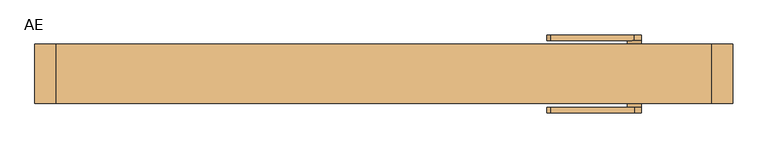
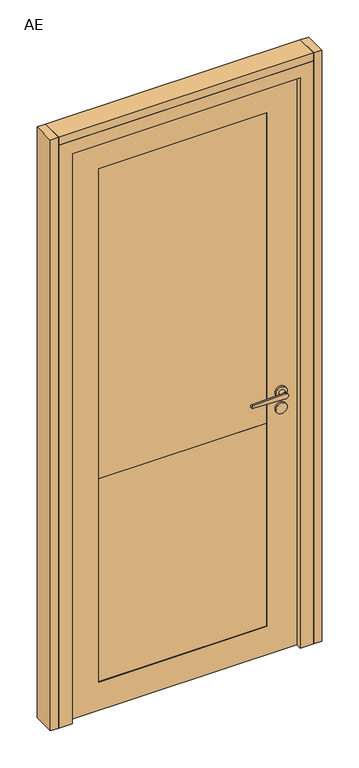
"""IFC4 building model written with IfcOpenShell, lengths in millimetres: door geometry, Mobiliário_Mobiliário de Escritório_Porta de Giro Mista Vidro Duplo com Persiana - AE_Marelli : AE."""

from ifc_helpers import new_model, si_unit, point, frame, frame_2d, origin, origin_with_axes, place, context, project, spatial, polyline, circle_curve, trimmed, segment, composite_curve, outline, extrude, faceted_brep, source, transform, mapped, element, save


def ae_54fc4071(model_context):
    return source(origin(), model_context, "Body", "SolidModel", [
        extrude(outline(polyline([(-500.0, -42.5), (-500.0, 42.5), (-470.0, 42.5), (-470.0, -42.5), (-500.0, -42.5)])), origin_with_axes(), (0.0, 0.0, 1.0), 2300.0),
        extrude(outline(polyline([(500.0, -42.5), (470.0, -42.5), (470.0, 42.5), (500.0, 42.5), (500.0, -42.5)])), origin_with_axes(), (0.0, 0.0, 1.0), 2300.0),
        extrude(outline(polyline([(2219.5, -419.5), (0.5, -419.5), (0.5, 419.5), (2219.5, 419.5), (2219.5, -419.5)]), holes=[polyline([(110.5, 309.5), (110.5, -309.5), (2109.5, -309.5), (2109.5, 309.5), (110.5, 309.5)])]), frame((0.0, -21.0, 0.0), z_axis=(0.0, 1.0, 0.0), x_axis=(0.0, 0.0, 1.0)), (0.0, 0.0, 1.0), 42.0),
        extrude(outline(polyline([(309.5, -18.5), (-309.5, -18.5), (-309.5, -12.5), (309.5, -12.5), (309.5, -18.5)])), frame((0.0, 0.0, 900.5), z_axis=(0.0, 0.0, 1.0), x_axis=(1.0, 0.0, 0.0)), (0.0, 0.0, 1.0), 1209.0),
        extrude(outline(polyline([(309.5, 18.5), (309.5, 12.5), (-309.5, 12.5), (-309.5, 18.5), (309.5, 18.5)])), frame((0.0, 0.0, 900.5), z_axis=(0.0, 0.0, 1.0), x_axis=(1.0, 0.0, 0.0)), (0.0, 0.0, 1.0), 1209.0),
        extrude(outline(polyline([(309.5, -6.8783978), (-309.5, -6.8783978), (-309.5, 9.1216022), (309.5, 9.1216022), (309.5, -6.8783978)])), frame((0.0, 0.0, 1190.7), z_axis=(0.0, 0.0, 1.0), x_axis=(1.0, 0.0, 0.0)), (0.0, 0.0, 1.0), 0.8),
        extrude(outline(polyline([(309.5, -6.8783978), (-309.5, -6.8783978), (-309.5, 9.1216022), (309.5, 9.1216022), (309.5, -6.8783978)])), frame((0.0, 0.0, 1160.7), z_axis=(0.0, 0.0, 1.0), x_axis=(1.0, 0.0, 0.0)), (0.0, 0.0, 1.0), 0.8),
        extrude(outline(polyline([(309.5, -6.8783978), (-309.5, -6.8783978), (-309.5, 9.1216022), (309.5, 9.1216022), (309.5, -6.8783978)])), frame((0.0, 0.0, 1130.7), z_axis=(0.0, 0.0, 1.0), x_axis=(1.0, 0.0, 0.0)), (0.0, 0.0, 1.0), 0.8),
        extrude(outline(polyline([(309.5, -6.8783978), (-309.5, -6.8783978), (-309.5, 9.1216022), (309.5, 9.1216022), (309.5, -6.8783978)])), frame((0.0, 0.0, 1100.7), z_axis=(0.0, 0.0, 1.0), x_axis=(1.0, 0.0, 0.0)), (0.0, 0.0, 1.0), 0.8),
        extrude(outline(polyline([(309.5, -6.8783978), (-309.5, -6.8783978), (-309.5, 9.1216022), (309.5, 9.1216022), (309.5, -6.8783978)])), frame((0.0, 0.0, 1070.7), z_axis=(0.0, 0.0, 1.0), x_axis=(1.0, 0.0, 0.0)), (0.0, 0.0, 1.0), 0.8),
        extrude(outline(polyline([(309.5, -6.8783978), (-309.5, -6.8783978), (-309.5, 9.1216022), (309.5, 9.1216022), (309.5, -6.8783978)])), frame((0.0, 0.0, 1040.7), z_axis=(0.0, 0.0, 1.0), x_axis=(1.0, 0.0, 0.0)), (0.0, 0.0, 1.0), 0.8),
        extrude(outline(polyline([(309.5, -6.8783978), (-309.5, -6.8783978), (-309.5, 9.1216022), (309.5, 9.1216022), (309.5, -6.8783978)])), frame((0.0, 0.0, 1010.7), z_axis=(0.0, 0.0, 1.0), x_axis=(1.0, 0.0, 0.0)), (0.0, 0.0, 1.0), 0.8),
        extrude(outline(polyline([(309.5, -6.8783978), (-309.5, -6.8783978), (-309.5, 9.1216022), (309.5, 9.1216022), (309.5, -6.8783978)])), frame((0.0, 0.0, 980.7), z_axis=(0.0, 0.0, 1.0), x_axis=(1.0, 0.0, 0.0)), (0.0, 0.0, 1.0), 0.8),
        extrude(outline(polyline([(309.5, -6.8783978), (-309.5, -6.8783978), (-309.5, 9.1216022), (309.5, 9.1216022), (309.5, -6.8783978)])), frame((0.0, 0.0, 950.7), z_axis=(0.0, 0.0, 1.0), x_axis=(1.0, 0.0, 0.0)), (0.0, 0.0, 1.0), 0.8),
        extrude(outline(polyline([(309.5, -6.8783978), (-309.5, -6.8783978), (-309.5, 9.1216022), (309.5, 9.1216022), (309.5, -6.8783978)])), frame((0.0, 0.0, 920.7), z_axis=(0.0, 0.0, 1.0), x_axis=(1.0, 0.0, 0.0)), (0.0, 0.0, 1.0), 0.8),
        extrude(outline(polyline([(309.5, -6.8783978), (-309.5, -6.8783978), (-309.5, 9.1216022), (309.5, 9.1216022), (309.5, -6.8783978)])), frame((0.0, 0.0, 2060.7), z_axis=(0.0, 0.0, 1.0), x_axis=(1.0, 0.0, 0.0)), (0.0, 0.0, 1.0), 0.8),
        extrude(outline(polyline([(309.5, -6.8783978), (-309.5, -6.8783978), (-309.5, 9.1216022), (309.5, 9.1216022), (309.5, -6.8783978)])), frame((0.0, 0.0, 2030.7), z_axis=(0.0, 0.0, 1.0), x_axis=(1.0, 0.0, 0.0)), (0.0, 0.0, 1.0), 0.8),
        extrude(outline(polyline([(309.5, -6.8783978), (-309.5, -6.8783978), (-309.5, 9.1216022), (309.5, 9.1216022), (309.5, -6.8783978)])), frame((0.0, 0.0, 2000.7), z_axis=(0.0, 0.0, 1.0), x_axis=(1.0, 0.0, 0.0)), (0.0, 0.0, 1.0), 0.8),
        extrude(outline(polyline([(309.5, -6.8783978), (-309.5, -6.8783978), (-309.5, 9.1216022), (309.5, 9.1216022), (309.5, -6.8783978)])), frame((0.0, 0.0, 1970.7), z_axis=(0.0, 0.0, 1.0), x_axis=(1.0, 0.0, 0.0)), (0.0, 0.0, 1.0), 0.8),
        extrude(outline(polyline([(309.5, -6.8783978), (-309.5, -6.8783978), (-309.5, 9.1216022), (309.5, 9.1216022), (309.5, -6.8783978)])), frame((0.0, 0.0, 1940.7), z_axis=(0.0, 0.0, 1.0), x_axis=(1.0, 0.0, 0.0)), (0.0, 0.0, 1.0), 0.8),
        extrude(outline(polyline([(309.5, -6.8783978), (-309.5, -6.8783978), (-309.5, 9.1216022), (309.5, 9.1216022), (309.5, -6.8783978)])), frame((0.0, 0.0, 1910.7), z_axis=(0.0, 0.0, 1.0), x_axis=(1.0, 0.0, 0.0)), (0.0, 0.0, 1.0), 0.8),
        extrude(outline(polyline([(309.5, -6.8783978), (-309.5, -6.8783978), (-309.5, 9.1216022), (309.5, 9.1216022), (309.5, -6.8783978)])), frame((0.0, 0.0, 1880.7), z_axis=(0.0, 0.0, 1.0), x_axis=(1.0, 0.0, 0.0)), (0.0, 0.0, 1.0), 0.8),
        extrude(outline(polyline([(309.5, -6.8783978), (-309.5, -6.8783978), (-309.5, 9.1216022), (309.5, 9.1216022), (309.5, -6.8783978)])), frame((0.0, 0.0, 1850.7), z_axis=(0.0, 0.0, 1.0), x_axis=(1.0, 0.0, 0.0)), (0.0, 0.0, 1.0), 0.8),
        extrude(outline(polyline([(309.5, -6.8783978), (-309.5, -6.8783978), (-309.5, 9.1216022), (309.5, 9.1216022), (309.5, -6.8783978)])), frame((0.0, 0.0, 1820.7), z_axis=(0.0, 0.0, 1.0), x_axis=(1.0, 0.0, 0.0)), (0.0, 0.0, 1.0), 0.8),
        extrude(outline(polyline([(309.5, -6.8783978), (-309.5, -6.8783978), (-309.5, 9.1216022), (309.5, 9.1216022), (309.5, -6.8783978)])), frame((0.0, 0.0, 1790.7), z_axis=(0.0, 0.0, 1.0), x_axis=(1.0, 0.0, 0.0)), (0.0, 0.0, 1.0), 0.8),
        extrude(outline(polyline([(309.5, -6.8783978), (-309.5, -6.8783978), (-309.5, 9.1216022), (309.5, 9.1216022), (309.5, -6.8783978)])), frame((0.0, 0.0, 1760.7), z_axis=(0.0, 0.0, 1.0), x_axis=(1.0, 0.0, 0.0)), (0.0, 0.0, 1.0), 0.8),
        extrude(outline(polyline([(309.5, -6.8783978), (-309.5, -6.8783978), (-309.5, 9.1216022), (309.5, 9.1216022), (309.5, -6.8783978)])), frame((0.0, 0.0, 1730.7), z_axis=(0.0, 0.0, 1.0), x_axis=(1.0, 0.0, 0.0)), (0.0, 0.0, 1.0), 0.8),
        extrude(outline(polyline([(309.5, -6.8783978), (-309.5, -6.8783978), (-309.5, 9.1216022), (309.5, 9.1216022), (309.5, -6.8783978)])), frame((0.0, 0.0, 1700.7), z_axis=(0.0, 0.0, 1.0), x_axis=(1.0, 0.0, 0.0)), (0.0, 0.0, 1.0), 0.8),
        extrude(outline(polyline([(309.5, -6.8783978), (-309.5, -6.8783978), (-309.5, 9.1216022), (309.5, 9.1216022), (309.5, -6.8783978)])), frame((0.0, 0.0, 1670.7), z_axis=(0.0, 0.0, 1.0), x_axis=(1.0, 0.0, 0.0)), (0.0, 0.0, 1.0), 0.8),
        extrude(outline(polyline([(309.5, -6.8783978), (-309.5, -6.8783978), (-309.5, 9.1216022), (309.5, 9.1216022), (309.5, -6.8783978)])), frame((0.0, 0.0, 1640.7), z_axis=(0.0, 0.0, 1.0), x_axis=(1.0, 0.0, 0.0)), (0.0, 0.0, 1.0), 0.8),
        extrude(outline(polyline([(309.5, -6.8783978), (-309.5, -6.8783978), (-309.5, 9.1216022), (309.5, 9.1216022), (309.5, -6.8783978)])), frame((0.0, 0.0, 1610.7), z_axis=(0.0, 0.0, 1.0), x_axis=(1.0, 0.0, 0.0)), (0.0, 0.0, 1.0), 0.8),
        extrude(outline(polyline([(309.5, -6.8783978), (-309.5, -6.8783978), (-309.5, 9.1216022), (309.5, 9.1216022), (309.5, -6.8783978)])), frame((0.0, 0.0, 1580.7), z_axis=(0.0, 0.0, 1.0), x_axis=(1.0, 0.0, 0.0)), (0.0, 0.0, 1.0), 0.8),
        extrude(outline(polyline([(309.5, -6.8783978), (-309.5, -6.8783978), (-309.5, 9.1216022), (309.5, 9.1216022), (309.5, -6.8783978)])), frame((0.0, 0.0, 1550.7), z_axis=(0.0, 0.0, 1.0), x_axis=(1.0, 0.0, 0.0)), (0.0, 0.0, 1.0), 0.8),
        extrude(outline(polyline([(309.5, -6.8783978), (-309.5, -6.8783978), (-309.5, 9.1216022), (309.5, 9.1216022), (309.5, -6.8783978)])), frame((0.0, 0.0, 1520.7), z_axis=(0.0, 0.0, 1.0), x_axis=(1.0, 0.0, 0.0)), (0.0, 0.0, 1.0), 0.8),
        extrude(outline(polyline([(309.5, -6.8783978), (-309.5, -6.8783978), (-309.5, 9.1216022), (309.5, 9.1216022), (309.5, -6.8783978)])), frame((0.0, 0.0, 1490.7), z_axis=(0.0, 0.0, 1.0), x_axis=(1.0, 0.0, 0.0)), (0.0, 0.0, 1.0), 0.8),
        extrude(outline(polyline([(309.5, -6.8783978), (-309.5, -6.8783978), (-309.5, 9.1216022), (309.5, 9.1216022), (309.5, -6.8783978)])), frame((0.0, 0.0, 1460.7), z_axis=(0.0, 0.0, 1.0), x_axis=(1.0, 0.0, 0.0)), (0.0, 0.0, 1.0), 0.8),
        extrude(outline(polyline([(309.5, -6.8783978), (-309.5, -6.8783978), (-309.5, 9.1216022), (309.5, 9.1216022), (309.5, -6.8783978)])), frame((0.0, 0.0, 1430.7), z_axis=(0.0, 0.0, 1.0), x_axis=(1.0, 0.0, 0.0)), (0.0, 0.0, 1.0), 0.8),
        extrude(outline(polyline([(309.5, -6.8783978), (-309.5, -6.8783978), (-309.5, 9.1216022), (309.5, 9.1216022), (309.5, -6.8783978)])), frame((0.0, 0.0, 1400.7), z_axis=(0.0, 0.0, 1.0), x_axis=(1.0, 0.0, 0.0)), (0.0, 0.0, 1.0), 0.8),
        extrude(outline(polyline([(309.5, -6.8783978), (-309.5, -6.8783978), (-309.5, 9.1216022), (309.5, 9.1216022), (309.5, -6.8783978)])), frame((0.0, 0.0, 1370.7), z_axis=(0.0, 0.0, 1.0), x_axis=(1.0, 0.0, 0.0)), (0.0, 0.0, 1.0), 0.8),
        extrude(outline(polyline([(309.5, -6.8783978), (-309.5, -6.8783978), (-309.5, 9.1216022), (309.5, 9.1216022), (309.5, -6.8783978)])), frame((0.0, 0.0, 1340.7), z_axis=(0.0, 0.0, 1.0), x_axis=(1.0, 0.0, 0.0)), (0.0, 0.0, 1.0), 0.8),
        extrude(outline(polyline([(309.5, -6.8783978), (-309.5, -6.8783978), (-309.5, 9.1216022), (309.5, 9.1216022), (309.5, -6.8783978)])), frame((0.0, 0.0, 1310.7), z_axis=(0.0, 0.0, 1.0), x_axis=(1.0, 0.0, 0.0)), (0.0, 0.0, 1.0), 0.8),
        extrude(outline(polyline([(309.5, -6.8783978), (-309.5, -6.8783978), (-309.5, 9.1216022), (309.5, 9.1216022), (309.5, -6.8783978)])), frame((0.0, 0.0, 1280.7), z_axis=(0.0, 0.0, 1.0), x_axis=(1.0, 0.0, 0.0)), (0.0, 0.0, 1.0), 0.8),
        extrude(outline(polyline([(309.5, -6.8783978), (-309.5, -6.8783978), (-309.5, 9.1216022), (309.5, 9.1216022), (309.5, -6.8783978)])), frame((0.0, 0.0, 1250.7), z_axis=(0.0, 0.0, 1.0), x_axis=(1.0, 0.0, 0.0)), (0.0, 0.0, 1.0), 0.8),
        extrude(outline(polyline([(309.5, -6.8783978), (-309.5, -6.8783978), (-309.5, 9.1216022), (309.5, 9.1216022), (309.5, -6.8783978)])), frame((0.0, 0.0, 1220.7), z_axis=(0.0, 0.0, 1.0), x_axis=(1.0, 0.0, 0.0)), (0.0, 0.0, 1.0), 0.8),
        extrude(outline(polyline([(470.0, -42.5), (-470.0, -42.5), (-470.0, 42.5), (470.0, 42.5), (470.0, -42.5)])), frame((0.0, 0.0, 2270.0), z_axis=(0.0, 0.0, 1.0), x_axis=(1.0, 0.0, 0.0)), (0.0, 0.0, 1.0), 30.0),
        extrude(outline(polyline([(309.5, -12.5), (-309.5, -12.5), (-309.5, 12.5), (309.5, 12.5), (309.5, -12.5)])), frame((0.0, 0.0, 2076.5), z_axis=(0.0, 0.0, 1.0), x_axis=(1.0, 0.0, 0.0)), (0.0, 0.0, 1.0), 25.0),
        faceted_brep([(-470.0, 42.5, 2270.0), (470.0, 42.5, 2270.0), (470.0, 42.5, 0.0), (390.0, 42.5, 0.0), (390.0, 42.5, 2190.0), (-390.0, 42.5, 2190.0), (-390.0, 42.5, 0.0), (-470.0, 42.5, 0.0), (-470.0, -42.5, 0.0), (-470.0, -42.5, 2270.0), (-390.0, 21.5, 0.0), (-420.0, 21.5, 0.0), (-420.0, -42.5, 0.0), (470.0, -42.5, 0.0), (420.0, -42.5, 0.0), (420.0, 21.5, 0.0), (390.0, 21.5, 0.0), (-390.0, 21.5, 2190.0), (390.0, 21.5, 2190.0), (470.0, -42.5, 2270.0), (420.0, 21.5, 2220.0), (-420.0, 21.5, 2220.0), (-420.0, -42.5, 2220.0), (420.0, -42.5, 2220.0)], [[[0, 1, 2, 3, 4, 5, 6, 7]], [[0, 7, 8, 9]], [[7, 6, 10, 11, 12, 8]], [[2, 13, 14, 15, 16, 3]], [[6, 5, 17, 10]], [[16, 18, 4, 3]], [[19, 13, 2, 1]], [[18, 16, 15, 20, 21, 11, 10, 17]], [[21, 22, 12, 11]], [[14, 23, 20, 15]], [[23, 14, 13, 19, 9, 8, 12, 22]], [[4, 18, 17, 5]], [[22, 21, 20, 23]], [[19, 1, 0, 9]]]),
        extrude(outline(polyline([(309.5, -18.5), (-309.5, -18.5), (-309.5, 18.5), (309.5, 18.5), (309.5, -18.5)])), frame((0.0, 0.0, 110.5), z_axis=(0.0, 0.0, 1.0), x_axis=(1.0, 0.0, 0.0)), (0.0, 0.0, 1.0), 790.0),
        extrude(outline(composite_curve([segment(trimmed(circle_curve(frame_2d((1010.0, 359.2)), 20.8), [point((1010.0, 338.4))], [point((1010.0, 380.0))], False, "CARTESIAN"), True, "CONTINUOUS"), segment(trimmed(circle_curve(frame_2d((1010.0, 359.2)), 20.8), [point((1010.0, 380.0))], [point((1010.0, 338.4))], False, "CARTESIAN"), True, "CONTINUOUS")], self_intersect=False)), frame((0.0, -29.0, 0.0), z_axis=(0.0, 1.0, 0.0), x_axis=(0.0, 0.0, 1.0)), (0.0, 0.0, 1.0), 8.0),
        extrude(outline(composite_curve([segment(trimmed(circle_curve(frame_2d((947.58, 359.2)), 20.8), [point((947.58, 338.4))], [point((947.58, 380.0))], False, "CARTESIAN"), True, "CONTINUOUS"), segment(trimmed(circle_curve(frame_2d((947.58, 359.2)), 20.8), [point((947.58, 380.0))], [point((947.58, 338.4))], False, "CARTESIAN"), True, "CONTINUOUS")], self_intersect=False)), frame((0.0, -29.0, 0.0), z_axis=(0.0, 1.0, 0.0), x_axis=(0.0, 0.0, 1.0)), (0.0, 0.0, 1.0), 8.0),
        extrude(outline(composite_curve([segment(trimmed(circle_curve(frame_2d((1010.0, 359.2)), 20.8), [point((1010.0, 338.4))], [point((1010.0, 380.0))], False, "CARTESIAN"), True, "CONTINUOUS"), segment(trimmed(circle_curve(frame_2d((1010.0, 359.2)), 20.8), [point((1010.0, 380.0))], [point((1010.0, 338.4))], False, "CARTESIAN"), True, "CONTINUOUS")], self_intersect=False)), frame((0.0, 21.0, 0.0), z_axis=(0.0, 1.0, 0.0), x_axis=(0.0, 0.0, 1.0)), (0.0, 0.0, 1.0), 8.0),
        extrude(outline(composite_curve([segment(trimmed(circle_curve(frame_2d((947.58, 359.2)), 20.8), [point((947.58, 338.4))], [point((947.58, 380.0))], False, "CARTESIAN"), True, "CONTINUOUS"), segment(trimmed(circle_curve(frame_2d((947.58, 359.2)), 20.8), [point((947.58, 380.0))], [point((947.58, 338.4))], False, "CARTESIAN"), True, "CONTINUOUS")], self_intersect=False)), frame((0.0, 21.0, 0.0), z_axis=(0.0, 1.0, 0.0), x_axis=(0.0, 0.0, 1.0)), (0.0, 0.0, 1.0), 8.0),
        extrude(outline(composite_curve([segment(trimmed(circle_curve(frame_2d((1010.0, 359.2)), 10.0), [point((1000.0, 359.2))], [point((1020.0, 359.2))], False, "CARTESIAN"), True, "CONTINUOUS"), segment(polyline([(1020.0, 359.2), (1014.970724, 239.0650676)]), True, "CONTINUOUS"), segment(trimmed(circle_curve(frame_2d((1010.0145906, 239.0650676)), 4.9561334), [point((1014.970724, 239.0650676))], [point((1005.0584573, 239.0650676))], False, "CARTESIAN"), True, "CONTINUOUS"), segment(polyline([(1005.0584573, 239.0650676), (1000.0, 359.2)]), True, "CONTINUOUS")], self_intersect=False)), frame((0.0, -56.0, 0.0), z_axis=(0.0, 1.0, 0.0), x_axis=(0.0, 0.0, 1.0)), (0.0, 0.0, 1.0), 8.0),
        extrude(outline(composite_curve([segment(trimmed(circle_curve(frame_2d((1010.0, 359.2)), 10.0), [point((1010.0, 349.2))], [point((1010.0, 369.2))], False, "CARTESIAN"), True, "CONTINUOUS"), segment(trimmed(circle_curve(frame_2d((1010.0, 359.2)), 10.0), [point((1010.0, 369.2))], [point((1010.0, 349.2))], False, "CARTESIAN"), True, "CONTINUOUS")], self_intersect=False)), frame((0.0, 29.0, 0.0), z_axis=(0.0, 1.0, 0.0), x_axis=(0.0, 0.0, 1.0)), (0.0, 0.0, 1.0), 19.0),
        extrude(outline(composite_curve([segment(trimmed(circle_curve(frame_2d((1010.0, 359.2)), 10.0), [point((1010.0, 349.2))], [point((1010.0, 369.2))], False, "CARTESIAN"), True, "CONTINUOUS"), segment(trimmed(circle_curve(frame_2d((1010.0, 359.2)), 10.0), [point((1010.0, 369.2))], [point((1010.0, 349.2))], False, "CARTESIAN"), True, "CONTINUOUS")], self_intersect=False)), frame((0.0, -48.0, 0.0), z_axis=(0.0, 1.0, 0.0), x_axis=(0.0, 0.0, 1.0)), (0.0, 0.0, 1.0), 19.0),
        extrude(outline(composite_curve([segment(trimmed(circle_curve(frame_2d((1010.0145906, 239.0650676)), 4.9561334), [point((1014.970724, 239.0650676))], [point((1005.0584573, 239.0650676))], False, "CARTESIAN"), True, "CONTINUOUS"), segment(polyline([(1005.0584573, 239.0650676), (1000.0, 359.2)]), True, "CONTINUOUS"), segment(trimmed(circle_curve(frame_2d((1010.0, 359.2)), 10.0), [point((1000.0, 359.2))], [point((1020.0, 359.2))], False, "CARTESIAN"), True, "CONTINUOUS"), segment(polyline([(1020.0, 359.2), (1014.970724, 239.0650676)]), True, "CONTINUOUS")], self_intersect=False)), frame((0.0, 48.0, 0.0), z_axis=(0.0, 1.0, 0.0), x_axis=(0.0, 0.0, 1.0)), (0.0, 0.0, 1.0), 8.0),
    ])


if __name__ == "__main__":
    model = new_model("IFC4")
    model_context = context("Model", 3, world=origin())
    ifc_project = project(units=[si_unit("LENGTHUNIT", "METRE", prefix="MILLI")], contexts=[model_context])
    site = spatial("IfcSite", under=ifc_project)
    building = spatial("IfcBuilding", under=site)
    placement = place(None, origin())
    ae_shape = ae_54fc4071(model_context)
    element("IfcDoor", 1, ObjectType="Mobiliário_Mobiliário de Escritório_Porta de Giro Mista Vidro Duplo com Persiana - AE_Marelli : AE", at=placement, inside=building, context=model_context, shape_type="MappedRepresentation", body=[
        mapped(ae_shape, transform((0.0, 0.0, 0.0), x_axis=(1.0, 0.0, 0.0), y_axis=(0.0, 1.0, 0.0), z_axis=(0.0, 0.0, 1.0))),
    ])
    save(model, "model.ifc")
